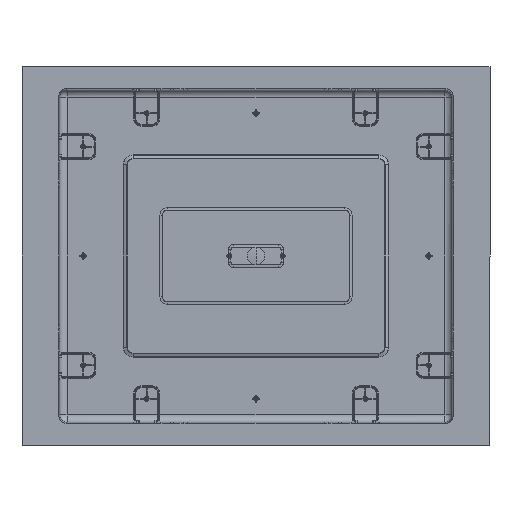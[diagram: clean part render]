
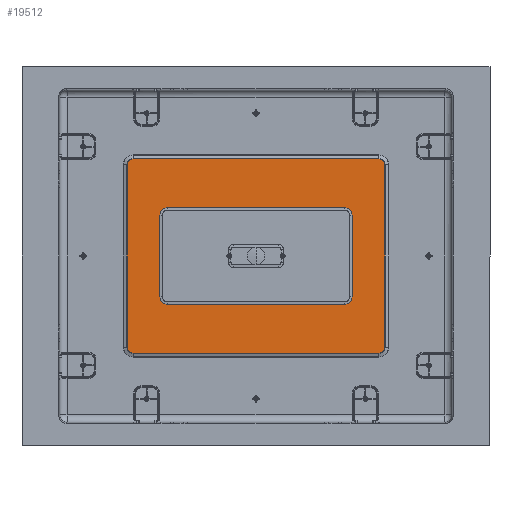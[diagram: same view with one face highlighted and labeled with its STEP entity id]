
A CAD part, front view. The second image highlights one B-rep face of the part: STEP entity #19512.
In plain terms, the highlighted planar face has unit normal (0, -1, 0).
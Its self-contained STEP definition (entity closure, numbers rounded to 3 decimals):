
#294 = VERTEX_POINT ( 'NONE', #2273 ) ;
#1684 = ORIENTED_EDGE ( 'NONE', *, *, #51434, .T. ) ;
#1687 = CARTESIAN_POINT ( 'NONE',  ( -178., -101., -97. ) ) ;
#1997 = VERTEX_POINT ( 'NONE', #35257 ) ;
#2273 = CARTESIAN_POINT ( 'NONE',  ( 193., -101., -82. ) ) ;
#3687 = VERTEX_POINT ( 'NONE', #56966 ) ;
#3739 = CARTESIAN_POINT ( 'NONE',  ( 247., -101., -194.898 ) ) ;
#4283 = ORIENTED_EDGE ( 'NONE', *, *, #10788, .T. ) ;
#4366 = DIRECTION ( 'NONE',  ( -1., 0., 0. ) ) ;
#4380 = CARTESIAN_POINT ( 'NONE',  ( -247., -101., 194.898 ) ) ;
#4521 = EDGE_LOOP ( 'NONE', ( #47937, #50986, #47888, #96246, #88832, #8812, #76520, #77582 ) ) ;
#4949 = VERTEX_POINT ( 'NONE', #1687 ) ;
#6379 = CARTESIAN_POINT ( 'NONE',  ( -247., -101., 183. ) ) ;
#6832 = VECTOR ( 'NONE', #67890, 1000. ) ;
#8812 = ORIENTED_EDGE ( 'NONE', *, *, #32096, .T. ) ;
#10788 = EDGE_CURVE ( 'NONE', #29201, #73425, #77599, .T. ) ;
#11332 = VECTOR ( 'NONE', #91878, 1000. ) ;
#12188 = CARTESIAN_POINT ( 'NONE',  ( 258.898, -101., -183. ) ) ;
#12612 = CARTESIAN_POINT ( 'NONE',  ( -258.898, -101., 183. ) ) ;
#12697 = EDGE_CURVE ( 'NONE', #90700, #4949, #44493, .T. ) ;
#12838 = CARTESIAN_POINT ( 'NONE',  ( -193., -101., -82. ) ) ;
#13060 = VERTEX_POINT ( 'NONE', #60261 ) ;
#13966 = DIRECTION ( 'NONE',  ( 0., 0., 1. ) ) ;
#14453 = DIRECTION ( 'NONE',  ( 0., -1., 0. ) ) ;
#14983 = CARTESIAN_POINT ( 'NONE',  ( -258.898, -101., -183. ) ) ;
#15743 = VERTEX_POINT ( 'NONE', #26002 ) ;
#16070 = CIRCLE ( 'NONE', #72091, 15. ) ;
#16260 = LINE ( 'NONE', #44883, #6832 ) ;
#17186 = EDGE_CURVE ( 'NONE', #97987, #3687, #16260, .T. ) ;
#18604 = VECTOR ( 'NONE', #4366, 1000. ) ;
#19512 = ADVANCED_FACE ( 'NONE', ( #97078, #27536 ), #28017, .F. ) ;
#19929 = DIRECTION ( 'NONE',  ( 0., 0., 1. ) ) ;
#22375 = VERTEX_POINT ( 'NONE', #28641 ) ;
#23450 = DIRECTION ( 'NONE',  ( 0., 0., 1. ) ) ;
#24685 = DIRECTION ( 'NONE',  ( 0., 0., 1. ) ) ;
#25327 = DIRECTION ( 'NONE',  ( 0., 0., 1. ) ) ;
#26002 = CARTESIAN_POINT ( 'NONE',  ( 247., -101., -194.898 ) ) ;
#26915 = EDGE_LOOP ( 'NONE', ( #69950, #1684, #74753, #42098, #66113, #4283, #85936, #39004 ) ) ;
#27536 = FACE_OUTER_BOUND ( 'NONE', #26915, .T. ) ;
#28017 = PLANE ( 'NONE',  #98042 ) ;
#28029 = AXIS2_PLACEMENT_3D ( 'NONE', #6379, #37023, #65542 ) ;
#28569 = CARTESIAN_POINT ( 'NONE',  ( -247., -101., -183. ) ) ;
#28641 = CARTESIAN_POINT ( 'NONE',  ( -247., -101., -194.898 ) ) ;
#29201 = VERTEX_POINT ( 'NONE', #4380 ) ;
#30089 = CARTESIAN_POINT ( 'NONE',  ( 178., -101., -82. ) ) ;
#30496 = AXIS2_PLACEMENT_3D ( 'NONE', #43048, #74083, #75933 ) ;
#31787 = LINE ( 'NONE', #62775, #11332 ) ;
#32096 = EDGE_CURVE ( 'NONE', #80085, #13060, #31787, .T. ) ;
#32876 = DIRECTION ( 'NONE',  ( 1., 0., 0. ) ) ;
#35257 = CARTESIAN_POINT ( 'NONE',  ( 258.898, -101., -183. ) ) ;
#35494 = CARTESIAN_POINT ( 'NONE',  ( -178., -101., -97. ) ) ;
#36480 = CARTESIAN_POINT ( 'NONE',  ( 178., -101., 82. ) ) ;
#36923 = CIRCLE ( 'NONE', #30496, 11.898 ) ;
#37023 = DIRECTION ( 'NONE',  ( 0., -1., 0. ) ) ;
#37629 = EDGE_CURVE ( 'NONE', #3687, #80085, #91714, .T. ) ;
#37768 = CARTESIAN_POINT ( 'NONE',  ( 193., -101., -82. ) ) ;
#37990 = CARTESIAN_POINT ( 'NONE',  ( 247., -101., -183. ) ) ;
#38348 = EDGE_CURVE ( 'NONE', #22375, #15743, #48369, .T. ) ;
#39004 = ORIENTED_EDGE ( 'NONE', *, *, #61309, .T. ) ;
#39230 = CIRCLE ( 'NONE', #64787, 11.898 ) ;
#41818 = AXIS2_PLACEMENT_3D ( 'NONE', #98641, #14453, #13966 ) ;
#41835 = CARTESIAN_POINT ( 'NONE',  ( 258.898, -101., 183. ) ) ;
#42098 = ORIENTED_EDGE ( 'NONE', *, *, #95609, .T. ) ;
#43048 = CARTESIAN_POINT ( 'NONE',  ( 247., -101., 183. ) ) ;
#43331 = DIRECTION ( 'NONE',  ( 0., 0., 1. ) ) ;
#43796 = CARTESIAN_POINT ( 'NONE',  ( -258.898, -101., -183. ) ) ;
#44493 = LINE ( 'NONE', #35494, #18604 ) ;
#44883 = CARTESIAN_POINT ( 'NONE',  ( -193., -101., 82. ) ) ;
#45143 = CARTESIAN_POINT ( 'NONE',  ( 247., -101., 194.898 ) ) ;
#47233 = LINE ( 'NONE', #48727, #51382 ) ;
#47888 = ORIENTED_EDGE ( 'NONE', *, *, #96367, .T. ) ;
#47937 = ORIENTED_EDGE ( 'NONE', *, *, #63524, .T. ) ;
#48369 = LINE ( 'NONE', #3739, #88597 ) ;
#48727 = CARTESIAN_POINT ( 'NONE',  ( 247., -101., 194.898 ) ) ;
#49806 = CIRCLE ( 'NONE', #41818, 11.898 ) ;
#50023 = EDGE_CURVE ( 'NONE', #82829, #29201, #47233, .T. ) ;
#50299 = LINE ( 'NONE', #12188, #64060 ) ;
#50813 = DIRECTION ( 'NONE',  ( 0., 1., 0. ) ) ;
#50986 = ORIENTED_EDGE ( 'NONE', *, *, #12697, .T. ) ;
#51382 = VECTOR ( 'NONE', #56265, 1000. ) ;
#51434 = EDGE_CURVE ( 'NONE', #15743, #1997, #49806, .T. ) ;
#51553 = DIRECTION ( 'NONE',  ( 0., 0., 1. ) ) ;
#53077 = DIRECTION ( 'NONE',  ( 0., 0., 1. ) ) ;
#56265 = DIRECTION ( 'NONE',  ( -1., 0., 0. ) ) ;
#56966 = CARTESIAN_POINT ( 'NONE',  ( -193., -101., 82. ) ) ;
#57361 = AXIS2_PLACEMENT_3D ( 'NONE', #36480, #59003, #19929 ) ;
#59003 = DIRECTION ( 'NONE',  ( 0., 1., 0. ) ) ;
#60261 = CARTESIAN_POINT ( 'NONE',  ( 178., -101., 97. ) ) ;
#60291 = LINE ( 'NONE', #37768, #81867 ) ;
#60592 = DIRECTION ( 'NONE',  ( 0., 1., 0. ) ) ;
#60981 = DIRECTION ( 'NONE',  ( 0., 1., 0. ) ) ;
#61309 = EDGE_CURVE ( 'NONE', #69407, #22375, #39230, .T. ) ;
#62775 = CARTESIAN_POINT ( 'NONE',  ( 178., -101., 97. ) ) ;
#63524 = EDGE_CURVE ( 'NONE', #294, #90700, #87372, .T. ) ;
#64060 = VECTOR ( 'NONE', #25327, 1000. ) ;
#64787 = AXIS2_PLACEMENT_3D ( 'NONE', #28569, #81610, #51553 ) ;
#65210 = VERTEX_POINT ( 'NONE', #41835 ) ;
#65542 = DIRECTION ( 'NONE',  ( 0., 0., 1. ) ) ;
#66113 = ORIENTED_EDGE ( 'NONE', *, *, #50023, .T. ) ;
#67890 = DIRECTION ( 'NONE',  ( 0., 0., 1. ) ) ;
#68274 = DIRECTION ( 'NONE',  ( 0., 0., -1. ) ) ;
#69407 = VERTEX_POINT ( 'NONE', #14983 ) ;
#69950 = ORIENTED_EDGE ( 'NONE', *, *, #38348, .T. ) ;
#70735 = CARTESIAN_POINT ( 'NONE',  ( -178., -101., -82. ) ) ;
#72091 = AXIS2_PLACEMENT_3D ( 'NONE', #70735, #72244, #24685 ) ;
#72244 = DIRECTION ( 'NONE',  ( 0., 1., 0. ) ) ;
#72429 = CARTESIAN_POINT ( 'NONE',  ( -178., -101., 97. ) ) ;
#73425 = VERTEX_POINT ( 'NONE', #12612 ) ;
#74083 = DIRECTION ( 'NONE',  ( 0., -1., 0. ) ) ;
#74753 = ORIENTED_EDGE ( 'NONE', *, *, #96736, .T. ) ;
#75933 = DIRECTION ( 'NONE',  ( 0., 0., 1. ) ) ;
#76142 = AXIS2_PLACEMENT_3D ( 'NONE', #30089, #60592, #53077 ) ;
#76520 = ORIENTED_EDGE ( 'NONE', *, *, #90402, .T. ) ;
#77582 = ORIENTED_EDGE ( 'NONE', *, *, #98304, .T. ) ;
#77599 = CIRCLE ( 'NONE', #28029, 11.898 ) ;
#78088 = CARTESIAN_POINT ( 'NONE',  ( 193., -101., 82. ) ) ;
#80085 = VERTEX_POINT ( 'NONE', #72429 ) ;
#80600 = VERTEX_POINT ( 'NONE', #78088 ) ;
#81363 = DIRECTION ( 'NONE',  ( 0., 0., -1. ) ) ;
#81610 = DIRECTION ( 'NONE',  ( 0., -1., 0. ) ) ;
#81867 = VECTOR ( 'NONE', #68274, 1000. ) ;
#82829 = VERTEX_POINT ( 'NONE', #45143 ) ;
#84579 = CIRCLE ( 'NONE', #57361, 15. ) ;
#85286 = EDGE_CURVE ( 'NONE', #73425, #69407, #95384, .T. ) ;
#85936 = ORIENTED_EDGE ( 'NONE', *, *, #85286, .T. ) ;
#87372 = CIRCLE ( 'NONE', #76142, 15. ) ;
#87901 = CARTESIAN_POINT ( 'NONE',  ( -178., -101., 82. ) ) ;
#87943 = CARTESIAN_POINT ( 'NONE',  ( 178., -101., -97. ) ) ;
#88597 = VECTOR ( 'NONE', #32876, 1000. ) ;
#88832 = ORIENTED_EDGE ( 'NONE', *, *, #37629, .T. ) ;
#90126 = AXIS2_PLACEMENT_3D ( 'NONE', #87901, #50813, #43331 ) ;
#90402 = EDGE_CURVE ( 'NONE', #13060, #80600, #84579, .T. ) ;
#90700 = VERTEX_POINT ( 'NONE', #87943 ) ;
#91714 = CIRCLE ( 'NONE', #90126, 15. ) ;
#91878 = DIRECTION ( 'NONE',  ( 1., 0., 0. ) ) ;
#94539 = VECTOR ( 'NONE', #81363, 1000. ) ;
#95384 = LINE ( 'NONE', #43796, #94539 ) ;
#95609 = EDGE_CURVE ( 'NONE', #65210, #82829, #36923, .T. ) ;
#96246 = ORIENTED_EDGE ( 'NONE', *, *, #17186, .T. ) ;
#96367 = EDGE_CURVE ( 'NONE', #4949, #97987, #16070, .T. ) ;
#96736 = EDGE_CURVE ( 'NONE', #1997, #65210, #50299, .T. ) ;
#97078 = FACE_BOUND ( 'NONE', #4521, .T. ) ;
#97987 = VERTEX_POINT ( 'NONE', #12838 ) ;
#98042 = AXIS2_PLACEMENT_3D ( 'NONE', #37990, #60981, #23450 ) ;
#98304 = EDGE_CURVE ( 'NONE', #80600, #294, #60291, .T. ) ;
#98641 = CARTESIAN_POINT ( 'NONE',  ( 247., -101., -183. ) ) ;
